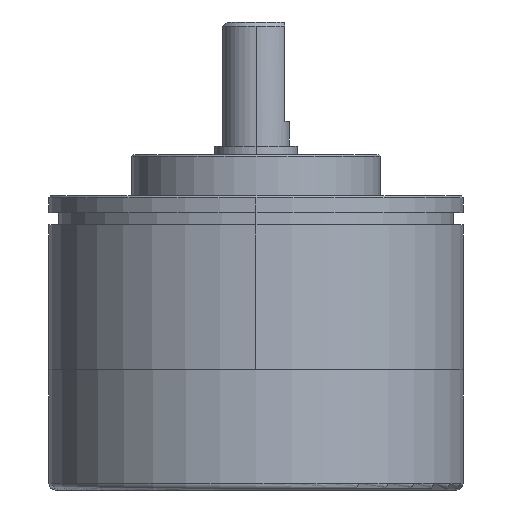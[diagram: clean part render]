
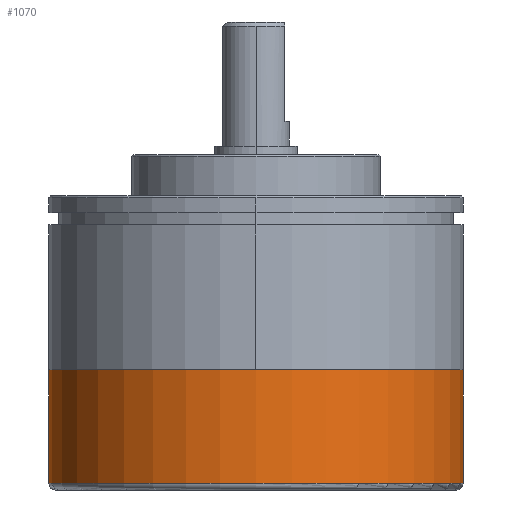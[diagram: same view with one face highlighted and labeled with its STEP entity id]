
A CAD part, left-side view. The second image highlights one B-rep face of the part: STEP entity #1070.
In plain terms, the highlighted cylindrical face has radius 25 mm (diameter 50 mm), a partial arc.
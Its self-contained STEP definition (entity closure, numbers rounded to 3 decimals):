
#420=CYLINDRICAL_SURFACE('',#5718,25.);
#595=LINE('',#20936,#768);
#596=LINE('',#20937,#769);
#768=VECTOR('',#7127,1.);
#769=VECTOR('',#7128,1.);
#1070=ADVANCED_FACE('',(#1365),#420,.T.);
#1365=FACE_OUTER_BOUND('',#1706,.T.);
#1706=EDGE_LOOP('',(#3289,#3290,#3291,#3292));
#3289=ORIENTED_EDGE('',*,*,#4656,.T.);
#3290=ORIENTED_EDGE('',*,*,#4651,.F.);
#3291=ORIENTED_EDGE('',*,*,#4655,.F.);
#3292=ORIENTED_EDGE('',*,*,#4660,.T.);
#3928=VERTEX_POINT('',#20920);
#3929=VERTEX_POINT('',#20921);
#3930=VERTEX_POINT('',#20935);
#3931=VERTEX_POINT('',#20938);
#4651=EDGE_CURVE('',#3928,#3929,#5079,.T.);
#4655=EDGE_CURVE('',#3930,#3928,#595,.T.);
#4656=EDGE_CURVE('',#3931,#3929,#596,.T.);
#4660=EDGE_CURVE('',#3930,#3931,#5082,.T.);
#5079=CIRCLE('',#5711,25.);
#5082=CIRCLE('',#5716,25.);
#5711=AXIS2_PLACEMENT_3D('',#20919,#7121,#7122);
#5716=AXIS2_PLACEMENT_3D('',#20966,#7135,#7136);
#5718=AXIS2_PLACEMENT_3D('',#20968,#7139,#7140);
#7121=DIRECTION('',(0.,0.,1.));
#7122=DIRECTION('',(0.981,0.195,0.));
#7127=DIRECTION('',(0.,0.,1.));
#7128=DIRECTION('',(0.,0.,1.));
#7135=DIRECTION('',(0.,0.,1.));
#7136=DIRECTION('',(0.981,0.195,0.));
#7139=DIRECTION('',(0.,0.,1.));
#7140=DIRECTION('',(-0.087,-0.996,0.));
#20919=CARTESIAN_POINT('',(20.,20.,-30.));
#20920=CARTESIAN_POINT('',(44.519,24.882,-30.));
#20921=CARTESIAN_POINT('',(43.299,10.935,-30.));
#20935=CARTESIAN_POINT('',(44.519,24.882,-43.7));
#20936=CARTESIAN_POINT('',(44.519,24.882,-43.7));
#20937=CARTESIAN_POINT('',(43.299,10.935,-43.7));
#20938=CARTESIAN_POINT('',(43.299,10.935,-43.7));
#20966=CARTESIAN_POINT('',(20.,20.,-43.7));
#20968=CARTESIAN_POINT('',(20.,20.,-44.5));
